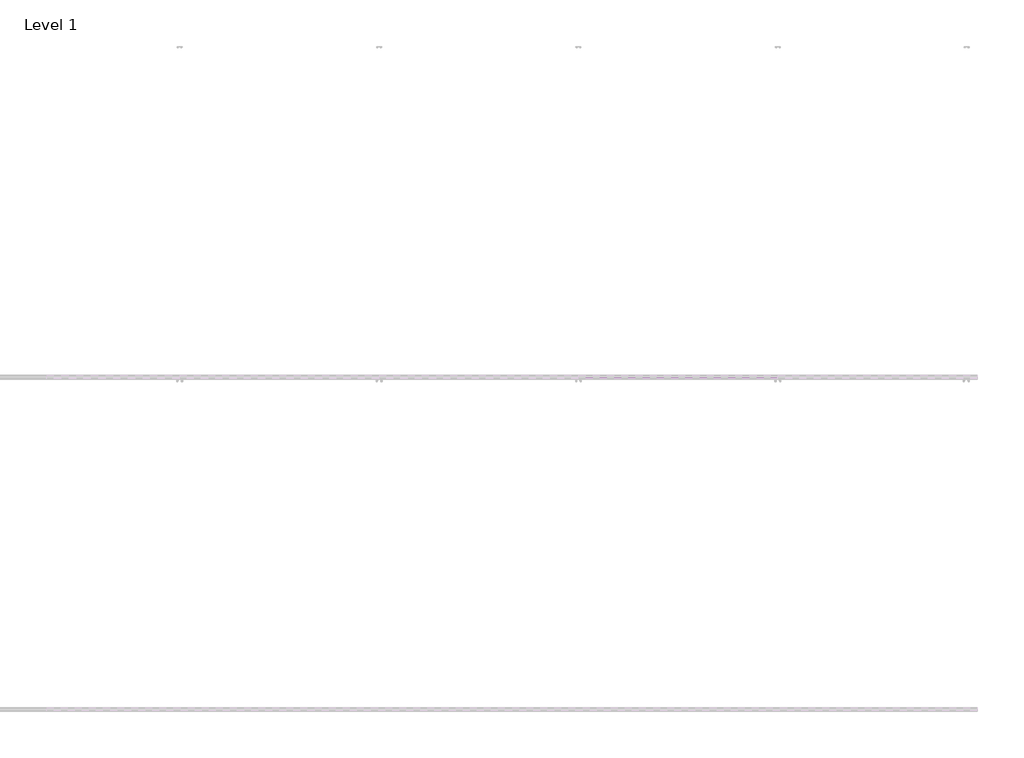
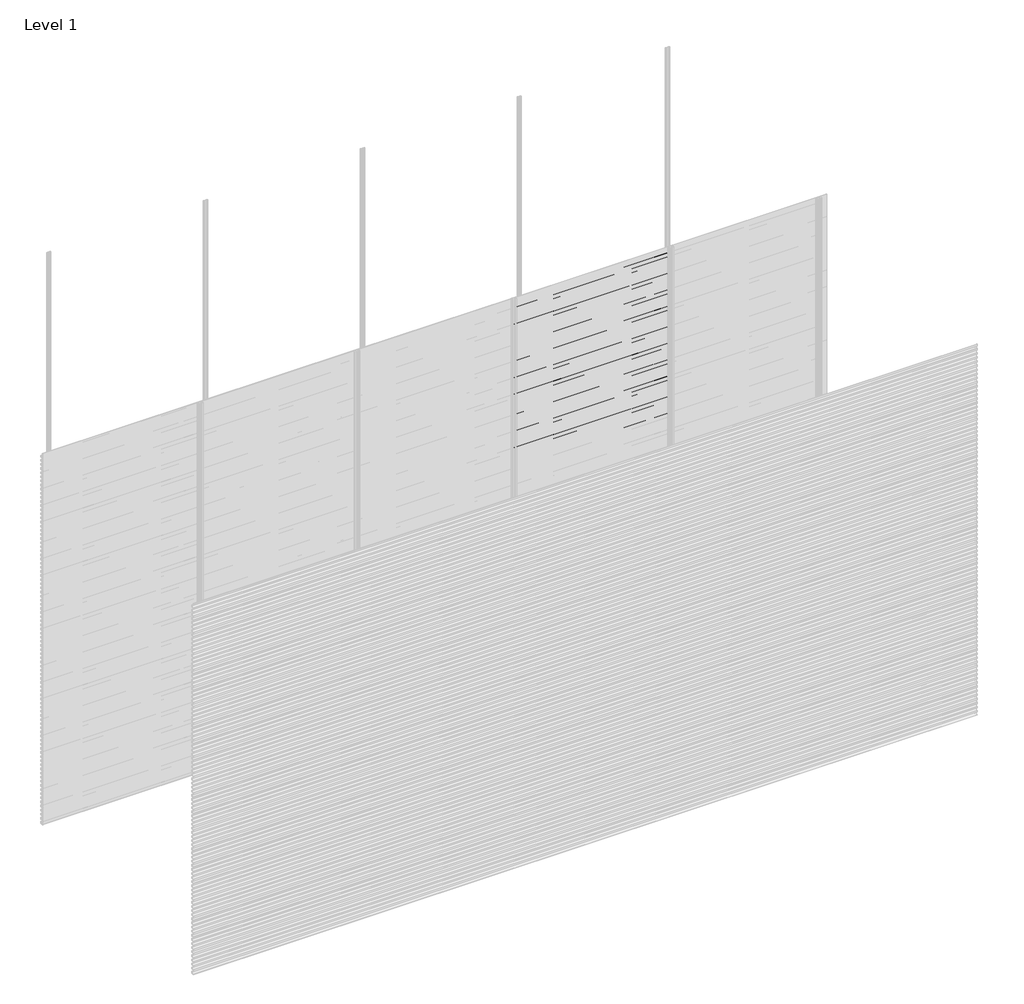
# One storey, part 68 of 77: 72 proxies.
"""IFC4 building model written with IfcOpenShell, lengths in millimetres."""

from ifc_helpers import new_model, si_unit, frame, origin, place, context, project, spatial, polyline, outline, extrude, element, save

model = new_model("IFC4")

# Units and contexts
model_context = context("Model", 3, world=origin())
ifc_project = project(units=[si_unit("LENGTHUNIT", "METRE", prefix="MILLI")], contexts=[model_context])

# Site, building, storey
site = spatial("IfcSite", under=ifc_project)
building = spatial("IfcBuilding", under=site)
storey = spatial("IfcBuildingStorey", under=building, Name="Level 1", Elevation=0.0)

# Proxies
placement = place(None, origin())
element("IfcBuildingElementProxy", 1, Name="Wall Sweeps", at=placement, inside=storey, context=model_context, shape_type="SweptSolid", body=[
    extrude(outline(polyline([(-5978.6, 1007.8359887), (-5998.0, 1019.0366691), (-5998.0, 1032.3), (-5997.0, 1032.3), (-5997.0, 1019.6191057), (-5977.6, 1008.4185105), (-5977.6, 994.8185105), (-5978.6, 996.3953129), (-5978.6, 1002.2032062), (-5995.9773817, 994.1), (-5996.4, 995.0063078), (-5978.6, 1003.3065841), (-5978.6, 1007.8359887)])), frame((2400.0, 0.0, 0.0), z_axis=(1.0, 0.0, 0.0), x_axis=(0.0, 1.0, 0.0)), (0.0, 0.0, 1.0), 1200.0),
])
element("IfcBuildingElementProxy", 2, Name="Wall Sweeps", at=placement, inside=storey, context=model_context, shape_type="SweptSolid", body=[
    extrude(outline(polyline([(-5978.6, 974.5359887), (-5998.0, 985.7366691), (-5998.0, 999.0), (-5997.0, 999.0), (-5997.0, 986.3191057), (-5977.6, 975.1185105), (-5977.6, 961.5185105), (-5978.6, 963.0953129), (-5978.6, 968.9032062), (-5995.9773817, 960.8), (-5996.4, 961.7063078), (-5978.6, 970.0065841), (-5978.6, 974.5359887)])), frame((2400.0, 0.0, 0.0), z_axis=(1.0, 0.0, 0.0), x_axis=(0.0, 1.0, 0.0)), (0.0, 0.0, 1.0), 1200.0),
])
element("IfcBuildingElementProxy", 3, Name="Wall Sweeps", at=placement, inside=storey, context=model_context, shape_type="SweptSolid", body=[
    extrude(outline(polyline([(-5978.6, 941.2359887), (-5998.0, 952.4366691), (-5998.0, 965.7), (-5997.0, 965.7), (-5997.0, 953.0191057), (-5977.6, 941.8185105), (-5977.6, 928.2185105), (-5978.6, 929.7953129), (-5978.6, 935.6032062), (-5995.9773817, 927.5), (-5996.4, 928.4063078), (-5978.6, 936.7065841), (-5978.6, 941.2359887)])), frame((2400.0, 0.0, 0.0), z_axis=(1.0, 0.0, 0.0), x_axis=(0.0, 1.0, 0.0)), (0.0, 0.0, 1.0), 1200.0),
])
element("IfcBuildingElementProxy", 4, Name="Wall Sweeps", at=placement, inside=storey, context=model_context, shape_type="SweptSolid", body=[
    extrude(outline(polyline([(-5978.6, 907.9359887), (-5998.0, 919.1366691), (-5998.0, 932.4), (-5997.0, 932.4), (-5997.0, 919.7191057), (-5977.6, 908.5185105), (-5977.6, 894.9185105), (-5978.6, 896.4953129), (-5978.6, 902.3032062), (-5995.9773817, 894.2), (-5996.4, 895.1063078), (-5978.6, 903.4065841), (-5978.6, 907.9359887)])), frame((2400.0, 0.0, 0.0), z_axis=(1.0, 0.0, 0.0), x_axis=(0.0, 1.0, 0.0)), (0.0, 0.0, 1.0), 1200.0),
])
element("IfcBuildingElementProxy", 5, Name="Wall Sweeps", at=placement, inside=storey, context=model_context, shape_type="SweptSolid", body=[
    extrude(outline(polyline([(-5978.6, 874.6359887), (-5998.0, 885.8366691), (-5998.0, 899.1), (-5997.0, 899.1), (-5997.0, 886.4191057), (-5977.6, 875.2185105), (-5977.6, 861.6185105), (-5978.6, 863.1953129), (-5978.6, 869.0032062), (-5995.9773817, 860.9), (-5996.4, 861.8063078), (-5978.6, 870.1065841), (-5978.6, 874.6359887)])), frame((2400.0, 0.0, 0.0), z_axis=(1.0, 0.0, 0.0), x_axis=(0.0, 1.0, 0.0)), (0.0, 0.0, 1.0), 1200.0),
])
element("IfcBuildingElementProxy", 6, Name="Wall Sweeps", at=placement, inside=storey, context=model_context, shape_type="SweptSolid", body=[
    extrude(outline(polyline([(-5978.6, 841.3359887), (-5998.0, 852.5366691), (-5998.0, 865.8), (-5997.0, 865.8), (-5997.0, 853.1191057), (-5977.6, 841.9185105), (-5977.6, 828.3185105), (-5978.6, 829.8953129), (-5978.6, 835.7032062), (-5995.9773817, 827.6), (-5996.4, 828.5063078), (-5978.6, 836.8065841), (-5978.6, 841.3359887)])), frame((2400.0, 0.0, 0.0), z_axis=(1.0, 0.0, 0.0), x_axis=(0.0, 1.0, 0.0)), (0.0, 0.0, 1.0), 1200.0),
])
element("IfcBuildingElementProxy", 7, Name="Wall Sweeps", at=placement, inside=storey, context=model_context, shape_type="SweptSolid", body=[
    extrude(outline(polyline([(-5978.6, 808.0359887), (-5998.0, 819.2366691), (-5998.0, 832.5), (-5997.0, 832.5), (-5997.0, 819.8191057), (-5977.6, 808.6185105), (-5977.6, 795.0185105), (-5978.6, 796.5953129), (-5978.6, 802.4032062), (-5995.9773817, 794.3), (-5996.4, 795.2063078), (-5978.6, 803.5065841), (-5978.6, 808.0359887)])), frame((2400.0, 0.0, 0.0), z_axis=(1.0, 0.0, 0.0), x_axis=(0.0, 1.0, 0.0)), (0.0, 0.0, 1.0), 1200.0),
])
element("IfcBuildingElementProxy", 8, Name="Wall Sweeps", at=placement, inside=storey, context=model_context, shape_type="SweptSolid", body=[
    extrude(outline(polyline([(-5978.6, 774.7359887), (-5998.0, 785.9366691), (-5998.0, 799.2), (-5997.0, 799.2), (-5997.0, 786.5191057), (-5977.6, 775.3185105), (-5977.6, 761.7185105), (-5978.6, 763.2953129), (-5978.6, 769.1032062), (-5995.9773817, 761.0), (-5996.4, 761.9063078), (-5978.6, 770.2065841), (-5978.6, 774.7359887)])), frame((2400.0, 0.0, 0.0), z_axis=(1.0, 0.0, 0.0), x_axis=(0.0, 1.0, 0.0)), (0.0, 0.0, 1.0), 1200.0),
])
element("IfcBuildingElementProxy", 9, Name="Wall Sweeps", at=placement, inside=storey, context=model_context, shape_type="SweptSolid", body=[
    extrude(outline(polyline([(-5978.6, 741.4359887), (-5998.0, 752.6366691), (-5998.0, 765.9), (-5997.0, 765.9), (-5997.0, 753.2191057), (-5977.6, 742.0185105), (-5977.6, 728.4185105), (-5978.6, 729.9953129), (-5978.6, 735.8032062), (-5995.9773817, 727.7), (-5996.4, 728.6063078), (-5978.6, 736.9065841), (-5978.6, 741.4359887)])), frame((2400.0, 0.0, 0.0), z_axis=(1.0, 0.0, 0.0), x_axis=(0.0, 1.0, 0.0)), (0.0, 0.0, 1.0), 1200.0),
])
element("IfcBuildingElementProxy", 10, Name="Wall Sweeps", at=placement, inside=storey, context=model_context, shape_type="SweptSolid", body=[
    extrude(outline(polyline([(-5978.6, 708.1359887), (-5998.0, 719.3366691), (-5998.0, 732.6), (-5997.0, 732.6), (-5997.0, 719.9191057), (-5977.6, 708.7185105), (-5977.6, 695.1185105), (-5978.6, 696.6953129), (-5978.6, 702.5032062), (-5995.9773817, 694.4), (-5996.4, 695.3063078), (-5978.6, 703.6065841), (-5978.6, 708.1359887)])), frame((2400.0, 0.0, 0.0), z_axis=(1.0, 0.0, 0.0), x_axis=(0.0, 1.0, 0.0)), (0.0, 0.0, 1.0), 1200.0),
])
element("IfcBuildingElementProxy", 11, Name="Wall Sweeps", at=placement, inside=storey, context=model_context, shape_type="SweptSolid", body=[
    extrude(outline(polyline([(-5978.6, 674.8359887), (-5998.0, 686.0366691), (-5998.0, 699.3), (-5997.0, 699.3), (-5997.0, 686.6191057), (-5977.6, 675.4185105), (-5977.6, 661.8185105), (-5978.6, 663.3953129), (-5978.6, 669.2032062), (-5995.9773817, 661.1), (-5996.4, 662.0063078), (-5978.6, 670.3065841), (-5978.6, 674.8359887)])), frame((2400.0, 0.0, 0.0), z_axis=(1.0, 0.0, 0.0), x_axis=(0.0, 1.0, 0.0)), (0.0, 0.0, 1.0), 1200.0),
])
element("IfcBuildingElementProxy", 12, Name="Wall Sweeps", at=placement, inside=storey, context=model_context, shape_type="SweptSolid", body=[
    extrude(outline(polyline([(-5978.6, 641.5359887), (-5998.0, 652.7366691), (-5998.0, 666.0), (-5997.0, 666.0), (-5997.0, 653.3191057), (-5977.6, 642.1185105), (-5977.6, 628.5185105), (-5978.6, 630.0953129), (-5978.6, 635.9032062), (-5995.9773817, 627.8), (-5996.4, 628.7063078), (-5978.6, 637.0065841), (-5978.6, 641.5359887)])), frame((2400.0, 0.0, 0.0), z_axis=(1.0, 0.0, 0.0), x_axis=(0.0, 1.0, 0.0)), (0.0, 0.0, 1.0), 1200.0),
])
element("IfcBuildingElementProxy", 13, Name="Wall Sweeps", at=placement, inside=storey, context=model_context, shape_type="SweptSolid", body=[
    extrude(outline(polyline([(-5978.6, 608.2359887), (-5998.0, 619.4366691), (-5998.0, 632.7), (-5997.0, 632.7), (-5997.0, 620.0191057), (-5977.6, 608.8185105), (-5977.6, 595.2185105), (-5978.6, 596.7953129), (-5978.6, 602.6032062), (-5995.9773817, 594.5), (-5996.4, 595.4063078), (-5978.6, 603.7065841), (-5978.6, 608.2359887)])), frame((2400.0, 0.0, 0.0), z_axis=(1.0, 0.0, 0.0), x_axis=(0.0, 1.0, 0.0)), (0.0, 0.0, 1.0), 1200.0),
])
element("IfcBuildingElementProxy", 14, Name="Wall Sweeps", at=placement, inside=storey, context=model_context, shape_type="SweptSolid", body=[
    extrude(outline(polyline([(-5978.6, 574.9359887), (-5998.0, 586.1366691), (-5998.0, 599.4), (-5997.0, 599.4), (-5997.0, 586.7191057), (-5977.6, 575.5185105), (-5977.6, 561.9185105), (-5978.6, 563.4953129), (-5978.6, 569.3032062), (-5995.9773817, 561.2), (-5996.4, 562.1063078), (-5978.6, 570.4065841), (-5978.6, 574.9359887)])), frame((2400.0, 0.0, 0.0), z_axis=(1.0, 0.0, 0.0), x_axis=(0.0, 1.0, 0.0)), (0.0, 0.0, 1.0), 1200.0),
])
element("IfcBuildingElementProxy", 15, Name="Wall Sweeps", at=placement, inside=storey, context=model_context, shape_type="SweptSolid", body=[
    extrude(outline(polyline([(-5978.6, 541.6359887), (-5998.0, 552.8366691), (-5998.0, 566.1), (-5997.0, 566.1), (-5997.0, 553.4191057), (-5977.6, 542.2185105), (-5977.6, 528.6185105), (-5978.6, 530.1953129), (-5978.6, 536.0032062), (-5995.9773817, 527.9), (-5996.4, 528.8063078), (-5978.6, 537.1065841), (-5978.6, 541.6359887)])), frame((2400.0, 0.0, 0.0), z_axis=(1.0, 0.0, 0.0), x_axis=(0.0, 1.0, 0.0)), (0.0, 0.0, 1.0), 1200.0),
])
element("IfcBuildingElementProxy", 16, Name="Wall Sweeps", at=placement, inside=storey, context=model_context, shape_type="SweptSolid", body=[
    extrude(outline(polyline([(-5978.6, 508.3359887), (-5998.0, 519.5366691), (-5998.0, 532.8), (-5997.0, 532.8), (-5997.0, 520.1191057), (-5977.6, 508.9185105), (-5977.6, 495.3185105), (-5978.6, 496.8953129), (-5978.6, 502.7032062), (-5995.9773817, 494.6), (-5996.4, 495.5063078), (-5978.6, 503.8065841), (-5978.6, 508.3359887)])), frame((2400.0, 0.0, 0.0), z_axis=(1.0, 0.0, 0.0), x_axis=(0.0, 1.0, 0.0)), (0.0, 0.0, 1.0), 1200.0),
])
element("IfcBuildingElementProxy", 17, Name="Wall Sweeps", at=placement, inside=storey, context=model_context, shape_type="SweptSolid", body=[
    extrude(outline(polyline([(-5978.6, 475.0359887), (-5998.0, 486.2366691), (-5998.0, 499.5), (-5997.0, 499.5), (-5997.0, 486.8191057), (-5977.6, 475.6185105), (-5977.6, 462.0185105), (-5978.6, 463.5953129), (-5978.6, 469.4032062), (-5995.9773817, 461.3), (-5996.4, 462.2063078), (-5978.6, 470.5065841), (-5978.6, 475.0359887)])), frame((2400.0, 0.0, 0.0), z_axis=(1.0, 0.0, 0.0), x_axis=(0.0, 1.0, 0.0)), (0.0, 0.0, 1.0), 1200.0),
])
element("IfcBuildingElementProxy", 18, Name="Wall Sweeps", at=placement, inside=storey, context=model_context, shape_type="SweptSolid", body=[
    extrude(outline(polyline([(-5978.6, 441.7359887), (-5998.0, 452.9366691), (-5998.0, 466.2), (-5997.0, 466.2), (-5997.0, 453.5191057), (-5977.6, 442.3185105), (-5977.6, 428.7185105), (-5978.6, 430.2953129), (-5978.6, 436.1032062), (-5995.9773817, 428.0), (-5996.4, 428.9063078), (-5978.6, 437.2065841), (-5978.6, 441.7359887)])), frame((2400.0, 0.0, 0.0), z_axis=(1.0, 0.0, 0.0), x_axis=(0.0, 1.0, 0.0)), (0.0, 0.0, 1.0), 1200.0),
])
element("IfcBuildingElementProxy", 19, Name="Wall Sweeps", at=placement, inside=storey, context=model_context, shape_type="SweptSolid", body=[
    extrude(outline(polyline([(-5978.6, 408.4359887), (-5998.0, 419.6366691), (-5998.0, 432.9), (-5997.0, 432.9), (-5997.0, 420.2191057), (-5977.6, 409.0185105), (-5977.6, 395.4185105), (-5978.6, 396.9953129), (-5978.6, 402.8032062), (-5995.9773817, 394.7), (-5996.4, 395.6063078), (-5978.6, 403.9065841), (-5978.6, 408.4359887)])), frame((2400.0, 0.0, 0.0), z_axis=(1.0, 0.0, 0.0), x_axis=(0.0, 1.0, 0.0)), (0.0, 0.0, 1.0), 1200.0),
])
element("IfcBuildingElementProxy", 20, Name="Wall Sweeps", at=placement, inside=storey, context=model_context, shape_type="SweptSolid", body=[
    extrude(outline(polyline([(-5978.6, 375.1359887), (-5998.0, 386.3366691), (-5998.0, 399.6), (-5997.0, 399.6), (-5997.0, 386.9191057), (-5977.6, 375.7185105), (-5977.6, 362.1185105), (-5978.6, 363.6953129), (-5978.6, 369.5032062), (-5995.9773817, 361.4), (-5996.4, 362.3063078), (-5978.6, 370.6065841), (-5978.6, 375.1359887)])), frame((2400.0, 0.0, 0.0), z_axis=(1.0, 0.0, 0.0), x_axis=(0.0, 1.0, 0.0)), (0.0, 0.0, 1.0), 1200.0),
])
element("IfcBuildingElementProxy", 21, Name="Wall Sweeps", at=placement, inside=storey, context=model_context, shape_type="SweptSolid", body=[
    extrude(outline(polyline([(-5978.6, 341.8359887), (-5998.0, 353.0366691), (-5998.0, 366.3), (-5997.0, 366.3), (-5997.0, 353.6191057), (-5977.6, 342.4185105), (-5977.6, 328.8185105), (-5978.6, 330.3953129), (-5978.6, 336.2032062), (-5995.9773817, 328.1), (-5996.4, 329.0063078), (-5978.6, 337.3065841), (-5978.6, 341.8359887)])), frame((2400.0, 0.0, 0.0), z_axis=(1.0, 0.0, 0.0), x_axis=(0.0, 1.0, 0.0)), (0.0, 0.0, 1.0), 1200.0),
])
element("IfcBuildingElementProxy", 22, Name="Wall Sweeps", at=placement, inside=storey, context=model_context, shape_type="SweptSolid", body=[
    extrude(outline(polyline([(-5978.6, 308.5359887), (-5998.0, 319.7366691), (-5998.0, 333.0), (-5997.0, 333.0), (-5997.0, 320.3191057), (-5977.6, 309.1185105), (-5977.6, 295.5185105), (-5978.6, 297.0953129), (-5978.6, 302.9032062), (-5995.9773817, 294.8), (-5996.4, 295.7063078), (-5978.6, 304.0065841), (-5978.6, 308.5359887)])), frame((2400.0, 0.0, 0.0), z_axis=(1.0, 0.0, 0.0), x_axis=(0.0, 1.0, 0.0)), (0.0, 0.0, 1.0), 1200.0),
])
element("IfcBuildingElementProxy", 23, Name="Wall Sweeps", at=placement, inside=storey, context=model_context, shape_type="SweptSolid", body=[
    extrude(outline(polyline([(-5978.6, 275.2359887), (-5998.0, 286.4366691), (-5998.0, 299.7), (-5997.0, 299.7), (-5997.0, 287.0191057), (-5977.6, 275.8185105), (-5977.6, 262.2185105), (-5978.6, 263.7953129), (-5978.6, 269.6032062), (-5995.9773817, 261.5), (-5996.4, 262.4063078), (-5978.6, 270.7065841), (-5978.6, 275.2359887)])), frame((2400.0, 0.0, 0.0), z_axis=(1.0, 0.0, 0.0), x_axis=(0.0, 1.0, 0.0)), (0.0, 0.0, 1.0), 1200.0),
])
element("IfcBuildingElementProxy", 24, Name="Wall Sweeps", at=placement, inside=storey, context=model_context, shape_type="SweptSolid", body=[
    extrude(outline(polyline([(-5978.6, 241.9359887), (-5998.0, 253.1366691), (-5998.0, 266.4), (-5997.0, 266.4), (-5997.0, 253.7191057), (-5977.6, 242.5185105), (-5977.6, 228.9185105), (-5978.6, 230.4953129), (-5978.6, 236.3032062), (-5995.9773817, 228.2), (-5996.4, 229.1063078), (-5978.6, 237.4065841), (-5978.6, 241.9359887)])), frame((2400.0, 0.0, 0.0), z_axis=(1.0, 0.0, 0.0), x_axis=(0.0, 1.0, 0.0)), (0.0, 0.0, 1.0), 1200.0),
])
element("IfcBuildingElementProxy", 25, Name="Wall Sweeps", at=placement, inside=storey, context=model_context, shape_type="SweptSolid", body=[
    extrude(outline(polyline([(-5978.6, 208.6359887), (-5998.0, 219.8366691), (-5998.0, 233.1), (-5997.0, 233.1), (-5997.0, 220.4191057), (-5977.6, 209.2185105), (-5977.6, 195.6185105), (-5978.6, 197.1953129), (-5978.6, 203.0032062), (-5995.9773817, 194.9), (-5996.4, 195.8063078), (-5978.6, 204.1065841), (-5978.6, 208.6359887)])), frame((2400.0, 0.0, 0.0), z_axis=(1.0, 0.0, 0.0), x_axis=(0.0, 1.0, 0.0)), (0.0, 0.0, 1.0), 1200.0),
])
element("IfcBuildingElementProxy", 26, Name="Wall Sweeps", at=placement, inside=storey, context=model_context, shape_type="SweptSolid", body=[
    extrude(outline(polyline([(-5978.6, 175.3359887), (-5998.0, 186.5366691), (-5998.0, 199.8), (-5997.0, 199.8), (-5997.0, 187.1191057), (-5977.6, 175.9185105), (-5977.6, 162.3185105), (-5978.6, 163.8953129), (-5978.6, 169.7032062), (-5995.9773817, 161.6), (-5996.4, 162.5063078), (-5978.6, 170.8065841), (-5978.6, 175.3359887)])), frame((2400.0, 0.0, 0.0), z_axis=(1.0, 0.0, 0.0), x_axis=(0.0, 1.0, 0.0)), (0.0, 0.0, 1.0), 1200.0),
])
element("IfcBuildingElementProxy", 27, Name="Wall Sweeps", at=placement, inside=storey, context=model_context, shape_type="SweptSolid", body=[
    extrude(outline(polyline([(-5978.6, 142.0359887), (-5998.0, 153.2366691), (-5998.0, 166.5), (-5997.0, 166.5), (-5997.0, 153.8191057), (-5977.6, 142.6185105), (-5977.6, 129.0185105), (-5978.6, 130.5953129), (-5978.6, 136.4032062), (-5995.9773817, 128.3), (-5996.4, 129.2063078), (-5978.6, 137.5065841), (-5978.6, 142.0359887)])), frame((2400.0, 0.0, 0.0), z_axis=(1.0, 0.0, 0.0), x_axis=(0.0, 1.0, 0.0)), (0.0, 0.0, 1.0), 1200.0),
])
element("IfcBuildingElementProxy", 28, Name="Wall Sweeps", at=placement, inside=storey, context=model_context, shape_type="SweptSolid", body=[
    extrude(outline(polyline([(-5978.6, 108.7359887), (-5998.0, 119.9366691), (-5998.0, 133.2), (-5997.0, 133.2), (-5997.0, 120.5191057), (-5977.6, 109.3185105), (-5977.6, 95.7185105), (-5978.6, 97.2953129), (-5978.6, 103.1032062), (-5995.9773817, 95.0), (-5996.4, 95.9063078), (-5978.6, 104.2065841), (-5978.6, 108.7359887)])), frame((2400.0, 0.0, 0.0), z_axis=(1.0, 0.0, 0.0), x_axis=(0.0, 1.0, 0.0)), (0.0, 0.0, 1.0), 1200.0),
])
element("IfcBuildingElementProxy", 29, Name="Wall Sweeps", at=placement, inside=storey, context=model_context, shape_type="SweptSolid", body=[
    extrude(outline(polyline([(-5978.6, 75.4359887), (-5998.0, 86.6366691), (-5998.0, 99.9), (-5997.0, 99.9), (-5997.0, 87.2191057), (-5977.6, 76.0185105), (-5977.6, 62.4185105), (-5978.6, 63.9953129), (-5978.6, 69.8032062), (-5995.9773817, 61.7), (-5996.4, 62.6063078), (-5978.6, 70.9065841), (-5978.6, 75.4359887)])), frame((2400.0, 0.0, 0.0), z_axis=(1.0, 0.0, 0.0), x_axis=(0.0, 1.0, 0.0)), (0.0, 0.0, 1.0), 1200.0),
])
element("IfcBuildingElementProxy", 30, Name="Wall Sweeps", at=placement, inside=storey, context=model_context, shape_type="SweptSolid", body=[
    extrude(outline(polyline([(-5978.6, 42.1359887), (-5998.0, 53.3366691), (-5998.0, 66.6), (-5997.0, 66.6), (-5997.0, 53.9191057), (-5977.6, 42.7185105), (-5977.6, 29.1185105), (-5978.6, 30.6953129), (-5978.6, 36.5032062), (-5995.9773817, 28.4), (-5996.4, 29.3063078), (-5978.6, 37.6065841), (-5978.6, 42.1359887)])), frame((2400.0, 0.0, 0.0), z_axis=(1.0, 0.0, 0.0), x_axis=(0.0, 1.0, 0.0)), (0.0, 0.0, 1.0), 1200.0),
])
element("IfcBuildingElementProxy", 31, Name="Wall Sweeps", at=placement, inside=storey, context=model_context, shape_type="SweptSolid", body=[
    extrude(outline(polyline([(-5978.6, 8.8359887), (-5998.0, 20.0366691), (-5998.0, 33.3), (-5997.0, 33.3), (-5997.0, 20.6191057), (-5977.6, 9.4185105), (-5977.6, -4.1814895), (-5978.6, -2.6046871), (-5978.6, 3.2032062), (-5995.9773817, -4.9), (-5996.4, -3.9936922), (-5978.6, 4.3065841), (-5978.6, 8.8359887)])), frame((2400.0, 0.0, 0.0), z_axis=(1.0, 0.0, 0.0), x_axis=(0.0, 1.0, 0.0)), (0.0, 0.0, 1.0), 1200.0),
])
element("IfcBuildingElementProxy", 32, Name="Wall Sweeps", at=placement, inside=storey, context=model_context, shape_type="SweptSolid", body=[
    extrude(outline(polyline([(-5978.6, 2972.5359887), (-5998.0, 2983.7366691), (-5998.0, 2997.0), (-5997.0, 2997.0), (-5997.0, 2984.3191057), (-5977.6, 2973.1185105), (-5977.6, 2959.5185105), (-5978.6, 2961.0953129), (-5978.6, 2966.9032062), (-5995.9773817, 2958.8), (-5996.4, 2959.7063078), (-5978.6, 2968.0065841), (-5978.6, 2972.5359887)])), frame((3600.0, 0.0, 0.0), z_axis=(1.0, 0.0, 0.0), x_axis=(0.0, 1.0, 0.0)), (0.0, 0.0, 1.0), 1200.0),
])
element("IfcBuildingElementProxy", 33, Name="Wall Sweeps", at=placement, inside=storey, context=model_context, shape_type="SweptSolid", body=[
    extrude(outline(polyline([(-5978.6, 2939.2359887), (-5998.0, 2950.4366691), (-5998.0, 2963.7), (-5997.0, 2963.7), (-5997.0, 2951.0191057), (-5977.6, 2939.8185105), (-5977.6, 2926.2185105), (-5978.6, 2927.7953129), (-5978.6, 2933.6032062), (-5995.9773817, 2925.5), (-5996.4, 2926.4063078), (-5978.6, 2934.7065841), (-5978.6, 2939.2359887)])), frame((3600.0, 0.0, 0.0), z_axis=(1.0, 0.0, 0.0), x_axis=(0.0, 1.0, 0.0)), (0.0, 0.0, 1.0), 1200.0),
])
element("IfcBuildingElementProxy", 34, Name="Wall Sweeps", at=placement, inside=storey, context=model_context, shape_type="SweptSolid", body=[
    extrude(outline(polyline([(-5978.6, 2905.9359887), (-5998.0, 2917.1366691), (-5998.0, 2930.4), (-5997.0, 2930.4), (-5997.0, 2917.7191057), (-5977.6, 2906.5185105), (-5977.6, 2892.9185105), (-5978.6, 2894.4953129), (-5978.6, 2900.3032062), (-5995.9773817, 2892.2), (-5996.4, 2893.1063078), (-5978.6, 2901.4065841), (-5978.6, 2905.9359887)])), frame((3600.0, 0.0, 0.0), z_axis=(1.0, 0.0, 0.0), x_axis=(0.0, 1.0, 0.0)), (0.0, 0.0, 1.0), 1200.0),
])
element("IfcBuildingElementProxy", 35, Name="Wall Sweeps", at=placement, inside=storey, context=model_context, shape_type="SweptSolid", body=[
    extrude(outline(polyline([(-5978.6, 2872.6359887), (-5998.0, 2883.8366691), (-5998.0, 2897.1), (-5997.0, 2897.1), (-5997.0, 2884.4191057), (-5977.6, 2873.2185105), (-5977.6, 2859.6185105), (-5978.6, 2861.1953129), (-5978.6, 2867.0032062), (-5995.9773817, 2858.9), (-5996.4, 2859.8063078), (-5978.6, 2868.1065841), (-5978.6, 2872.6359887)])), frame((3600.0, 0.0, 0.0), z_axis=(1.0, 0.0, 0.0), x_axis=(0.0, 1.0, 0.0)), (0.0, 0.0, 1.0), 1200.0),
])
element("IfcBuildingElementProxy", 36, Name="Wall Sweeps", at=placement, inside=storey, context=model_context, shape_type="SweptSolid", body=[
    extrude(outline(polyline([(-5978.6, 2839.3359887), (-5998.0, 2850.5366691), (-5998.0, 2863.8), (-5997.0, 2863.8), (-5997.0, 2851.1191057), (-5977.6, 2839.9185105), (-5977.6, 2826.3185105), (-5978.6, 2827.8953129), (-5978.6, 2833.7032062), (-5995.9773817, 2825.6), (-5996.4, 2826.5063078), (-5978.6, 2834.8065841), (-5978.6, 2839.3359887)])), frame((3600.0, 0.0, 0.0), z_axis=(1.0, 0.0, 0.0), x_axis=(0.0, 1.0, 0.0)), (0.0, 0.0, 1.0), 1200.0),
])
element("IfcBuildingElementProxy", 37, Name="Wall Sweeps", at=placement, inside=storey, context=model_context, shape_type="SweptSolid", body=[
    extrude(outline(polyline([(-5978.6, 2806.0359887), (-5998.0, 2817.2366691), (-5998.0, 2830.5), (-5997.0, 2830.5), (-5997.0, 2817.8191057), (-5977.6, 2806.6185105), (-5977.6, 2793.0185105), (-5978.6, 2794.5953129), (-5978.6, 2800.4032062), (-5995.9773817, 2792.3), (-5996.4, 2793.2063078), (-5978.6, 2801.5065841), (-5978.6, 2806.0359887)])), frame((3600.0, 0.0, 0.0), z_axis=(1.0, 0.0, 0.0), x_axis=(0.0, 1.0, 0.0)), (0.0, 0.0, 1.0), 1200.0),
])
element("IfcBuildingElementProxy", 38, Name="Wall Sweeps", at=placement, inside=storey, context=model_context, shape_type="SweptSolid", body=[
    extrude(outline(polyline([(-5978.6, 2772.7359887), (-5998.0, 2783.9366691), (-5998.0, 2797.2), (-5997.0, 2797.2), (-5997.0, 2784.5191057), (-5977.6, 2773.3185105), (-5977.6, 2759.7185105), (-5978.6, 2761.2953129), (-5978.6, 2767.1032062), (-5995.9773817, 2759.0), (-5996.4, 2759.9063078), (-5978.6, 2768.2065841), (-5978.6, 2772.7359887)])), frame((3600.0, 0.0, 0.0), z_axis=(1.0, 0.0, 0.0), x_axis=(0.0, 1.0, 0.0)), (0.0, 0.0, 1.0), 1200.0),
])
element("IfcBuildingElementProxy", 39, Name="Wall Sweeps", at=placement, inside=storey, context=model_context, shape_type="SweptSolid", body=[
    extrude(outline(polyline([(-5978.6, 2739.4359887), (-5998.0, 2750.6366691), (-5998.0, 2763.9), (-5997.0, 2763.9), (-5997.0, 2751.2191057), (-5977.6, 2740.0185105), (-5977.6, 2726.4185105), (-5978.6, 2727.9953129), (-5978.6, 2733.8032062), (-5995.9773817, 2725.7), (-5996.4, 2726.6063078), (-5978.6, 2734.9065841), (-5978.6, 2739.4359887)])), frame((3600.0, 0.0, 0.0), z_axis=(1.0, 0.0, 0.0), x_axis=(0.0, 1.0, 0.0)), (0.0, 0.0, 1.0), 1200.0),
])
element("IfcBuildingElementProxy", 40, Name="Wall Sweeps", at=placement, inside=storey, context=model_context, shape_type="SweptSolid", body=[
    extrude(outline(polyline([(-5978.6, 2706.1359887), (-5998.0, 2717.3366691), (-5998.0, 2730.6), (-5997.0, 2730.6), (-5997.0, 2717.9191057), (-5977.6, 2706.7185105), (-5977.6, 2693.1185105), (-5978.6, 2694.6953129), (-5978.6, 2700.5032062), (-5995.9773817, 2692.4), (-5996.4, 2693.3063078), (-5978.6, 2701.6065841), (-5978.6, 2706.1359887)])), frame((3600.0, 0.0, 0.0), z_axis=(1.0, 0.0, 0.0), x_axis=(0.0, 1.0, 0.0)), (0.0, 0.0, 1.0), 1200.0),
])
element("IfcBuildingElementProxy", 41, Name="Wall Sweeps", at=placement, inside=storey, context=model_context, shape_type="SweptSolid", body=[
    extrude(outline(polyline([(-5978.6, 2672.8359887), (-5998.0, 2684.0366691), (-5998.0, 2697.3), (-5997.0, 2697.3), (-5997.0, 2684.6191057), (-5977.6, 2673.4185105), (-5977.6, 2659.8185105), (-5978.6, 2661.3953129), (-5978.6, 2667.2032062), (-5995.9773817, 2659.1), (-5996.4, 2660.0063078), (-5978.6, 2668.3065841), (-5978.6, 2672.8359887)])), frame((3600.0, 0.0, 0.0), z_axis=(1.0, 0.0, 0.0), x_axis=(0.0, 1.0, 0.0)), (0.0, 0.0, 1.0), 1200.0),
])
element("IfcBuildingElementProxy", 42, Name="Wall Sweeps", at=placement, inside=storey, context=model_context, shape_type="SweptSolid", body=[
    extrude(outline(polyline([(-5978.6, 2639.5359887), (-5998.0, 2650.7366691), (-5998.0, 2664.0), (-5997.0, 2664.0), (-5997.0, 2651.3191057), (-5977.6, 2640.1185105), (-5977.6, 2626.5185105), (-5978.6, 2628.0953129), (-5978.6, 2633.9032062), (-5995.9773817, 2625.8), (-5996.4, 2626.7063078), (-5978.6, 2635.0065841), (-5978.6, 2639.5359887)])), frame((3600.0, 0.0, 0.0), z_axis=(1.0, 0.0, 0.0), x_axis=(0.0, 1.0, 0.0)), (0.0, 0.0, 1.0), 1200.0),
])
element("IfcBuildingElementProxy", 43, Name="Wall Sweeps", at=placement, inside=storey, context=model_context, shape_type="SweptSolid", body=[
    extrude(outline(polyline([(-5978.6, 2606.2359887), (-5998.0, 2617.4366691), (-5998.0, 2630.7), (-5997.0, 2630.7), (-5997.0, 2618.0191057), (-5977.6, 2606.8185105), (-5977.6, 2593.2185105), (-5978.6, 2594.7953129), (-5978.6, 2600.6032062), (-5995.9773817, 2592.5), (-5996.4, 2593.4063078), (-5978.6, 2601.7065841), (-5978.6, 2606.2359887)])), frame((3600.0, 0.0, 0.0), z_axis=(1.0, 0.0, 0.0), x_axis=(0.0, 1.0, 0.0)), (0.0, 0.0, 1.0), 1200.0),
])
element("IfcBuildingElementProxy", 44, Name="Wall Sweeps", at=placement, inside=storey, context=model_context, shape_type="SweptSolid", body=[
    extrude(outline(polyline([(-5978.6, 2572.9359887), (-5998.0, 2584.1366691), (-5998.0, 2597.4), (-5997.0, 2597.4), (-5997.0, 2584.7191057), (-5977.6, 2573.5185105), (-5977.6, 2559.9185105), (-5978.6, 2561.4953129), (-5978.6, 2567.3032062), (-5995.9773817, 2559.2), (-5996.4, 2560.1063078), (-5978.6, 2568.4065841), (-5978.6, 2572.9359887)])), frame((3600.0, 0.0, 0.0), z_axis=(1.0, 0.0, 0.0), x_axis=(0.0, 1.0, 0.0)), (0.0, 0.0, 1.0), 1200.0),
])
element("IfcBuildingElementProxy", 45, Name="Wall Sweeps", at=placement, inside=storey, context=model_context, shape_type="SweptSolid", body=[
    extrude(outline(polyline([(-5978.6, 2539.6359887), (-5998.0, 2550.8366691), (-5998.0, 2564.1), (-5997.0, 2564.1), (-5997.0, 2551.4191057), (-5977.6, 2540.2185105), (-5977.6, 2526.6185105), (-5978.6, 2528.1953129), (-5978.6, 2534.0032062), (-5995.9773817, 2525.9), (-5996.4, 2526.8063078), (-5978.6, 2535.1065841), (-5978.6, 2539.6359887)])), frame((3600.0, 0.0, 0.0), z_axis=(1.0, 0.0, 0.0), x_axis=(0.0, 1.0, 0.0)), (0.0, 0.0, 1.0), 1200.0),
])
element("IfcBuildingElementProxy", 46, Name="Wall Sweeps", at=placement, inside=storey, context=model_context, shape_type="SweptSolid", body=[
    extrude(outline(polyline([(-5978.6, 2506.3359887), (-5998.0, 2517.5366691), (-5998.0, 2530.8), (-5997.0, 2530.8), (-5997.0, 2518.1191057), (-5977.6, 2506.9185105), (-5977.6, 2493.3185105), (-5978.6, 2494.8953129), (-5978.6, 2500.7032062), (-5995.9773817, 2492.6), (-5996.4, 2493.5063078), (-5978.6, 2501.8065841), (-5978.6, 2506.3359887)])), frame((3600.0, 0.0, 0.0), z_axis=(1.0, 0.0, 0.0), x_axis=(0.0, 1.0, 0.0)), (0.0, 0.0, 1.0), 1200.0),
])
element("IfcBuildingElementProxy", 47, Name="Wall Sweeps", at=placement, inside=storey, context=model_context, shape_type="SweptSolid", body=[
    extrude(outline(polyline([(-5978.6, 2473.0359887), (-5998.0, 2484.2366691), (-5998.0, 2497.5), (-5997.0, 2497.5), (-5997.0, 2484.8191057), (-5977.6, 2473.6185105), (-5977.6, 2460.0185105), (-5978.6, 2461.5953129), (-5978.6, 2467.4032062), (-5995.9773817, 2459.3), (-5996.4, 2460.2063078), (-5978.6, 2468.5065841), (-5978.6, 2473.0359887)])), frame((3600.0, 0.0, 0.0), z_axis=(1.0, 0.0, 0.0), x_axis=(0.0, 1.0, 0.0)), (0.0, 0.0, 1.0), 1200.0),
])
element("IfcBuildingElementProxy", 48, Name="Wall Sweeps", at=placement, inside=storey, context=model_context, shape_type="SweptSolid", body=[
    extrude(outline(polyline([(-5978.6, 2439.7359887), (-5998.0, 2450.9366691), (-5998.0, 2464.2), (-5997.0, 2464.2), (-5997.0, 2451.5191057), (-5977.6, 2440.3185105), (-5977.6, 2426.7185105), (-5978.6, 2428.2953129), (-5978.6, 2434.1032062), (-5995.9773817, 2426.0), (-5996.4, 2426.9063078), (-5978.6, 2435.2065841), (-5978.6, 2439.7359887)])), frame((3600.0, 0.0, 0.0), z_axis=(1.0, 0.0, 0.0), x_axis=(0.0, 1.0, 0.0)), (0.0, 0.0, 1.0), 1200.0),
])
element("IfcBuildingElementProxy", 49, Name="Wall Sweeps", at=placement, inside=storey, context=model_context, shape_type="SweptSolid", body=[
    extrude(outline(polyline([(-5978.6, 2406.4359887), (-5998.0, 2417.6366691), (-5998.0, 2430.9), (-5997.0, 2430.9), (-5997.0, 2418.2191057), (-5977.6, 2407.0185105), (-5977.6, 2393.4185105), (-5978.6, 2394.9953129), (-5978.6, 2400.8032062), (-5995.9773817, 2392.7), (-5996.4, 2393.6063078), (-5978.6, 2401.9065841), (-5978.6, 2406.4359887)])), frame((3600.0, 0.0, 0.0), z_axis=(1.0, 0.0, 0.0), x_axis=(0.0, 1.0, 0.0)), (0.0, 0.0, 1.0), 1200.0),
])
element("IfcBuildingElementProxy", 50, Name="Wall Sweeps", at=placement, inside=storey, context=model_context, shape_type="SweptSolid", body=[
    extrude(outline(polyline([(-5978.6, 2373.1359887), (-5998.0, 2384.3366691), (-5998.0, 2397.6), (-5997.0, 2397.6), (-5997.0, 2384.9191057), (-5977.6, 2373.7185105), (-5977.6, 2360.1185105), (-5978.6, 2361.6953129), (-5978.6, 2367.5032062), (-5995.9773817, 2359.4), (-5996.4, 2360.3063078), (-5978.6, 2368.6065841), (-5978.6, 2373.1359887)])), frame((3600.0, 0.0, 0.0), z_axis=(1.0, 0.0, 0.0), x_axis=(0.0, 1.0, 0.0)), (0.0, 0.0, 1.0), 1200.0),
])
element("IfcBuildingElementProxy", 51, Name="Wall Sweeps", at=placement, inside=storey, context=model_context, shape_type="SweptSolid", body=[
    extrude(outline(polyline([(-5978.6, 2339.8359887), (-5998.0, 2351.0366691), (-5998.0, 2364.3), (-5997.0, 2364.3), (-5997.0, 2351.6191057), (-5977.6, 2340.4185105), (-5977.6, 2326.8185105), (-5978.6, 2328.3953129), (-5978.6, 2334.2032062), (-5995.9773817, 2326.1), (-5996.4, 2327.0063078), (-5978.6, 2335.3065841), (-5978.6, 2339.8359887)])), frame((3600.0, 0.0, 0.0), z_axis=(1.0, 0.0, 0.0), x_axis=(0.0, 1.0, 0.0)), (0.0, 0.0, 1.0), 1200.0),
])
element("IfcBuildingElementProxy", 52, Name="Wall Sweeps", at=placement, inside=storey, context=model_context, shape_type="SweptSolid", body=[
    extrude(outline(polyline([(-5978.6, 2306.5359887), (-5998.0, 2317.7366691), (-5998.0, 2331.0), (-5997.0, 2331.0), (-5997.0, 2318.3191057), (-5977.6, 2307.1185105), (-5977.6, 2293.5185105), (-5978.6, 2295.0953129), (-5978.6, 2300.9032062), (-5995.9773817, 2292.8), (-5996.4, 2293.7063078), (-5978.6, 2302.0065841), (-5978.6, 2306.5359887)])), frame((3600.0, 0.0, 0.0), z_axis=(1.0, 0.0, 0.0), x_axis=(0.0, 1.0, 0.0)), (0.0, 0.0, 1.0), 1200.0),
])
element("IfcBuildingElementProxy", 53, Name="Wall Sweeps", at=placement, inside=storey, context=model_context, shape_type="SweptSolid", body=[
    extrude(outline(polyline([(-5978.6, 2273.2359887), (-5998.0, 2284.4366691), (-5998.0, 2297.7), (-5997.0, 2297.7), (-5997.0, 2285.0191057), (-5977.6, 2273.8185105), (-5977.6, 2260.2185105), (-5978.6, 2261.7953129), (-5978.6, 2267.6032062), (-5995.9773817, 2259.5), (-5996.4, 2260.4063078), (-5978.6, 2268.7065841), (-5978.6, 2273.2359887)])), frame((3600.0, 0.0, 0.0), z_axis=(1.0, 0.0, 0.0), x_axis=(0.0, 1.0, 0.0)), (0.0, 0.0, 1.0), 1200.0),
])
element("IfcBuildingElementProxy", 54, Name="Wall Sweeps", at=placement, inside=storey, context=model_context, shape_type="SweptSolid", body=[
    extrude(outline(polyline([(-5978.6, 2239.9359887), (-5998.0, 2251.1366691), (-5998.0, 2264.4), (-5997.0, 2264.4), (-5997.0, 2251.7191057), (-5977.6, 2240.5185105), (-5977.6, 2226.9185105), (-5978.6, 2228.4953129), (-5978.6, 2234.3032062), (-5995.9773817, 2226.2), (-5996.4, 2227.1063078), (-5978.6, 2235.4065841), (-5978.6, 2239.9359887)])), frame((3600.0, 0.0, 0.0), z_axis=(1.0, 0.0, 0.0), x_axis=(0.0, 1.0, 0.0)), (0.0, 0.0, 1.0), 1200.0),
])
element("IfcBuildingElementProxy", 55, Name="Wall Sweeps", at=placement, inside=storey, context=model_context, shape_type="SweptSolid", body=[
    extrude(outline(polyline([(-5978.6, 2206.6359887), (-5998.0, 2217.8366691), (-5998.0, 2231.1), (-5997.0, 2231.1), (-5997.0, 2218.4191057), (-5977.6, 2207.2185105), (-5977.6, 2193.6185105), (-5978.6, 2195.1953129), (-5978.6, 2201.0032062), (-5995.9773817, 2192.9), (-5996.4, 2193.8063078), (-5978.6, 2202.1065841), (-5978.6, 2206.6359887)])), frame((3600.0, 0.0, 0.0), z_axis=(1.0, 0.0, 0.0), x_axis=(0.0, 1.0, 0.0)), (0.0, 0.0, 1.0), 1200.0),
])
element("IfcBuildingElementProxy", 56, Name="Wall Sweeps", at=placement, inside=storey, context=model_context, shape_type="SweptSolid", body=[
    extrude(outline(polyline([(-5978.6, 2173.3359887), (-5998.0, 2184.5366691), (-5998.0, 2197.8), (-5997.0, 2197.8), (-5997.0, 2185.1191057), (-5977.6, 2173.9185105), (-5977.6, 2160.3185105), (-5978.6, 2161.8953129), (-5978.6, 2167.7032062), (-5995.9773817, 2159.6), (-5996.4, 2160.5063078), (-5978.6, 2168.8065841), (-5978.6, 2173.3359887)])), frame((3600.0, 0.0, 0.0), z_axis=(1.0, 0.0, 0.0), x_axis=(0.0, 1.0, 0.0)), (0.0, 0.0, 1.0), 1200.0),
])
element("IfcBuildingElementProxy", 57, Name="Wall Sweeps", at=placement, inside=storey, context=model_context, shape_type="SweptSolid", body=[
    extrude(outline(polyline([(-5978.6, 2140.0359887), (-5998.0, 2151.2366691), (-5998.0, 2164.5), (-5997.0, 2164.5), (-5997.0, 2151.8191057), (-5977.6, 2140.6185105), (-5977.6, 2127.0185105), (-5978.6, 2128.5953129), (-5978.6, 2134.4032062), (-5995.9773817, 2126.3), (-5996.4, 2127.2063078), (-5978.6, 2135.5065841), (-5978.6, 2140.0359887)])), frame((3600.0, 0.0, 0.0), z_axis=(1.0, 0.0, 0.0), x_axis=(0.0, 1.0, 0.0)), (0.0, 0.0, 1.0), 1200.0),
])
element("IfcBuildingElementProxy", 58, Name="Wall Sweeps", at=placement, inside=storey, context=model_context, shape_type="SweptSolid", body=[
    extrude(outline(polyline([(-5978.6, 2106.7359887), (-5998.0, 2117.9366691), (-5998.0, 2131.2), (-5997.0, 2131.2), (-5997.0, 2118.5191057), (-5977.6, 2107.3185105), (-5977.6, 2093.7185105), (-5978.6, 2095.2953129), (-5978.6, 2101.1032062), (-5995.9773817, 2093.0), (-5996.4, 2093.9063078), (-5978.6, 2102.2065841), (-5978.6, 2106.7359887)])), frame((3600.0, 0.0, 0.0), z_axis=(1.0, 0.0, 0.0), x_axis=(0.0, 1.0, 0.0)), (0.0, 0.0, 1.0), 1200.0),
])
element("IfcBuildingElementProxy", 59, Name="Wall Sweeps", at=placement, inside=storey, context=model_context, shape_type="SweptSolid", body=[
    extrude(outline(polyline([(-5978.6, 2073.4359887), (-5998.0, 2084.6366691), (-5998.0, 2097.9), (-5997.0, 2097.9), (-5997.0, 2085.2191057), (-5977.6, 2074.0185105), (-5977.6, 2060.4185105), (-5978.6, 2061.9953129), (-5978.6, 2067.8032062), (-5995.9773817, 2059.7), (-5996.4, 2060.6063078), (-5978.6, 2068.9065841), (-5978.6, 2073.4359887)])), frame((3600.0, 0.0, 0.0), z_axis=(1.0, 0.0, 0.0), x_axis=(0.0, 1.0, 0.0)), (0.0, 0.0, 1.0), 1200.0),
])
element("IfcBuildingElementProxy", 60, Name="Wall Sweeps", at=placement, inside=storey, context=model_context, shape_type="SweptSolid", body=[
    extrude(outline(polyline([(-5978.6, 2040.1359887), (-5998.0, 2051.3366691), (-5998.0, 2064.6), (-5997.0, 2064.6), (-5997.0, 2051.9191057), (-5977.6, 2040.7185105), (-5977.6, 2027.1185105), (-5978.6, 2028.6953129), (-5978.6, 2034.5032062), (-5995.9773817, 2026.4), (-5996.4, 2027.3063078), (-5978.6, 2035.6065841), (-5978.6, 2040.1359887)])), frame((3600.0, 0.0, 0.0), z_axis=(1.0, 0.0, 0.0), x_axis=(0.0, 1.0, 0.0)), (0.0, 0.0, 1.0), 1200.0),
])
element("IfcBuildingElementProxy", 61, Name="Wall Sweeps", at=placement, inside=storey, context=model_context, shape_type="SweptSolid", body=[
    extrude(outline(polyline([(-5978.6, 2006.8359887), (-5998.0, 2018.0366691), (-5998.0, 2031.3), (-5997.0, 2031.3), (-5997.0, 2018.6191057), (-5977.6, 2007.4185105), (-5977.6, 1993.8185105), (-5978.6, 1995.3953129), (-5978.6, 2001.2032062), (-5995.9773817, 1993.1), (-5996.4, 1994.0063078), (-5978.6, 2002.3065841), (-5978.6, 2006.8359887)])), frame((3600.0, 0.0, 0.0), z_axis=(1.0, 0.0, 0.0), x_axis=(0.0, 1.0, 0.0)), (0.0, 0.0, 1.0), 1200.0),
])
element("IfcBuildingElementProxy", 62, Name="Wall Sweeps", at=placement, inside=storey, context=model_context, shape_type="SweptSolid", body=[
    extrude(outline(polyline([(-5978.6, 1973.5359887), (-5998.0, 1984.7366691), (-5998.0, 1998.0), (-5997.0, 1998.0), (-5997.0, 1985.3191057), (-5977.6, 1974.1185105), (-5977.6, 1960.5185105), (-5978.6, 1962.0953129), (-5978.6, 1967.9032062), (-5995.9773817, 1959.8), (-5996.4, 1960.7063078), (-5978.6, 1969.0065841), (-5978.6, 1973.5359887)])), frame((3600.0, 0.0, 0.0), z_axis=(1.0, 0.0, 0.0), x_axis=(0.0, 1.0, 0.0)), (0.0, 0.0, 1.0), 1200.0),
])
element("IfcBuildingElementProxy", 63, Name="Wall Sweeps", at=placement, inside=storey, context=model_context, shape_type="SweptSolid", body=[
    extrude(outline(polyline([(-5978.6, 1940.2359887), (-5998.0, 1951.4366691), (-5998.0, 1964.7), (-5997.0, 1964.7), (-5997.0, 1952.0191057), (-5977.6, 1940.8185105), (-5977.6, 1927.2185105), (-5978.6, 1928.7953129), (-5978.6, 1934.6032062), (-5995.9773817, 1926.5), (-5996.4, 1927.4063078), (-5978.6, 1935.7065841), (-5978.6, 1940.2359887)])), frame((3600.0, 0.0, 0.0), z_axis=(1.0, 0.0, 0.0), x_axis=(0.0, 1.0, 0.0)), (0.0, 0.0, 1.0), 1200.0),
])
element("IfcBuildingElementProxy", 64, Name="Wall Sweeps", at=placement, inside=storey, context=model_context, shape_type="SweptSolid", body=[
    extrude(outline(polyline([(-5978.6, 1906.9359887), (-5998.0, 1918.1366691), (-5998.0, 1931.4), (-5997.0, 1931.4), (-5997.0, 1918.7191057), (-5977.6, 1907.5185105), (-5977.6, 1893.9185105), (-5978.6, 1895.4953129), (-5978.6, 1901.3032062), (-5995.9773817, 1893.2), (-5996.4, 1894.1063078), (-5978.6, 1902.4065841), (-5978.6, 1906.9359887)])), frame((3600.0, 0.0, 0.0), z_axis=(1.0, 0.0, 0.0), x_axis=(0.0, 1.0, 0.0)), (0.0, 0.0, 1.0), 1200.0),
])
element("IfcBuildingElementProxy", 65, Name="Wall Sweeps", at=placement, inside=storey, context=model_context, shape_type="SweptSolid", body=[
    extrude(outline(polyline([(-5978.6, 1873.6359887), (-5998.0, 1884.8366691), (-5998.0, 1898.1), (-5997.0, 1898.1), (-5997.0, 1885.4191057), (-5977.6, 1874.2185105), (-5977.6, 1860.6185105), (-5978.6, 1862.1953129), (-5978.6, 1868.0032062), (-5995.9773817, 1859.9), (-5996.4, 1860.8063078), (-5978.6, 1869.1065841), (-5978.6, 1873.6359887)])), frame((3600.0, 0.0, 0.0), z_axis=(1.0, 0.0, 0.0), x_axis=(0.0, 1.0, 0.0)), (0.0, 0.0, 1.0), 1200.0),
])
element("IfcBuildingElementProxy", 66, Name="Wall Sweeps", at=placement, inside=storey, context=model_context, shape_type="SweptSolid", body=[
    extrude(outline(polyline([(-5978.6, 1840.3359887), (-5998.0, 1851.5366691), (-5998.0, 1864.8), (-5997.0, 1864.8), (-5997.0, 1852.1191057), (-5977.6, 1840.9185105), (-5977.6, 1827.3185105), (-5978.6, 1828.8953129), (-5978.6, 1834.7032062), (-5995.9773817, 1826.6), (-5996.4, 1827.5063078), (-5978.6, 1835.8065841), (-5978.6, 1840.3359887)])), frame((3600.0, 0.0, 0.0), z_axis=(1.0, 0.0, 0.0), x_axis=(0.0, 1.0, 0.0)), (0.0, 0.0, 1.0), 1200.0),
])
element("IfcBuildingElementProxy", 67, Name="Wall Sweeps", at=placement, inside=storey, context=model_context, shape_type="SweptSolid", body=[
    extrude(outline(polyline([(-5978.6, 1807.0359887), (-5998.0, 1818.2366691), (-5998.0, 1831.5), (-5997.0, 1831.5), (-5997.0, 1818.8191057), (-5977.6, 1807.6185105), (-5977.6, 1794.0185105), (-5978.6, 1795.5953129), (-5978.6, 1801.4032062), (-5995.9773817, 1793.3), (-5996.4, 1794.2063078), (-5978.6, 1802.5065841), (-5978.6, 1807.0359887)])), frame((3600.0, 0.0, 0.0), z_axis=(1.0, 0.0, 0.0), x_axis=(0.0, 1.0, 0.0)), (0.0, 0.0, 1.0), 1200.0),
])
element("IfcBuildingElementProxy", 68, Name="Wall Sweeps", at=placement, inside=storey, context=model_context, shape_type="SweptSolid", body=[
    extrude(outline(polyline([(-5978.6, 1773.7359887), (-5998.0, 1784.9366691), (-5998.0, 1798.2), (-5997.0, 1798.2), (-5997.0, 1785.5191057), (-5977.6, 1774.3185105), (-5977.6, 1760.7185105), (-5978.6, 1762.2953129), (-5978.6, 1768.1032062), (-5995.9773817, 1760.0), (-5996.4, 1760.9063078), (-5978.6, 1769.2065841), (-5978.6, 1773.7359887)])), frame((3600.0, 0.0, 0.0), z_axis=(1.0, 0.0, 0.0), x_axis=(0.0, 1.0, 0.0)), (0.0, 0.0, 1.0), 1200.0),
])
element("IfcBuildingElementProxy", 69, Name="Wall Sweeps", at=placement, inside=storey, context=model_context, shape_type="SweptSolid", body=[
    extrude(outline(polyline([(-5978.6, 1740.4359887), (-5998.0, 1751.6366691), (-5998.0, 1764.9), (-5997.0, 1764.9), (-5997.0, 1752.2191057), (-5977.6, 1741.0185105), (-5977.6, 1727.4185105), (-5978.6, 1728.9953129), (-5978.6, 1734.8032062), (-5995.9773817, 1726.7), (-5996.4, 1727.6063078), (-5978.6, 1735.9065841), (-5978.6, 1740.4359887)])), frame((3600.0, 0.0, 0.0), z_axis=(1.0, 0.0, 0.0), x_axis=(0.0, 1.0, 0.0)), (0.0, 0.0, 1.0), 1200.0),
])
element("IfcBuildingElementProxy", 70, Name="Wall Sweeps", at=placement, inside=storey, context=model_context, shape_type="SweptSolid", body=[
    extrude(outline(polyline([(-5978.6, 1707.1359887), (-5998.0, 1718.3366691), (-5998.0, 1731.6), (-5997.0, 1731.6), (-5997.0, 1718.9191057), (-5977.6, 1707.7185105), (-5977.6, 1694.1185105), (-5978.6, 1695.6953129), (-5978.6, 1701.5032062), (-5995.9773817, 1693.4), (-5996.4, 1694.3063078), (-5978.6, 1702.6065841), (-5978.6, 1707.1359887)])), frame((3600.0, 0.0, 0.0), z_axis=(1.0, 0.0, 0.0), x_axis=(0.0, 1.0, 0.0)), (0.0, 0.0, 1.0), 1200.0),
])
element("IfcBuildingElementProxy", 71, Name="Wall Sweeps", at=placement, inside=storey, context=model_context, shape_type="SweptSolid", body=[
    extrude(outline(polyline([(-5978.6, 1673.8359887), (-5998.0, 1685.0366691), (-5998.0, 1698.3), (-5997.0, 1698.3), (-5997.0, 1685.6191057), (-5977.6, 1674.4185105), (-5977.6, 1660.8185105), (-5978.6, 1662.3953129), (-5978.6, 1668.2032062), (-5995.9773817, 1660.1), (-5996.4, 1661.0063078), (-5978.6, 1669.3065841), (-5978.6, 1673.8359887)])), frame((3600.0, 0.0, 0.0), z_axis=(1.0, 0.0, 0.0), x_axis=(0.0, 1.0, 0.0)), (0.0, 0.0, 1.0), 1200.0),
])
element("IfcBuildingElementProxy", 72, Name="Wall Sweeps", at=placement, inside=storey, context=model_context, shape_type="SweptSolid", body=[
    extrude(outline(polyline([(-5978.6, 1640.5359887), (-5998.0, 1651.7366691), (-5998.0, 1665.0), (-5997.0, 1665.0), (-5997.0, 1652.3191057), (-5977.6, 1641.1185105), (-5977.6, 1627.5185105), (-5978.6, 1629.0953129), (-5978.6, 1634.9032062), (-5995.9773817, 1626.8), (-5996.4, 1627.7063078), (-5978.6, 1636.0065841), (-5978.6, 1640.5359887)])), frame((3600.0, 0.0, 0.0), z_axis=(1.0, 0.0, 0.0), x_axis=(0.0, 1.0, 0.0)), (0.0, 0.0, 1.0), 1200.0),
])

save(model, "model.ifc")
